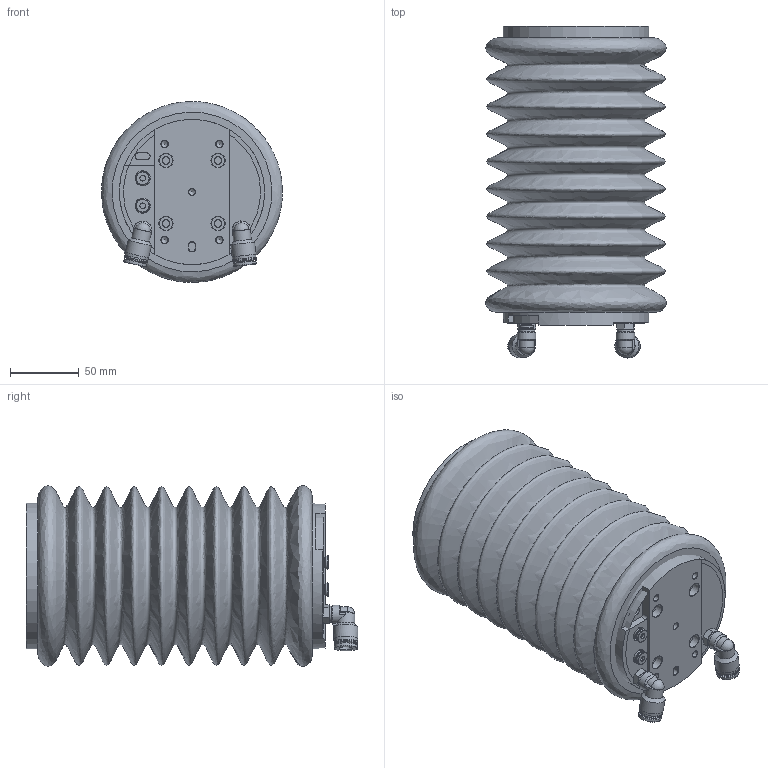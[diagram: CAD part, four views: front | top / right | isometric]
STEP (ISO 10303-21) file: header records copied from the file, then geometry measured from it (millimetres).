
FILE_DESCRIPTION(/* description */ (''),/* implementation_level */ '2;1');
FILE_NAME(/* name */ '\\Ds713\02.研發專案\T_機構研發\3_T3000系列_浮動工具\LS201_大型LC浮動\4.CAD\0.簡化CAD\LS201.stp',/* time_stamp */ '2020-03-24T17:28:49+08:00',/* author */ ('PC-acer'),/* organization */ (''),/* preprocessor_version */ 'ST-DEVELOPER v15.2',/* originating_system */ 'Autodesk Inventor 2014',/* authorisation */ '');
FILE_SCHEMA (('AUTOMOTIVE_DESIGN { 1 0 10303 214 3 1 1 }'));
Length unit declared in the file: millimetre
Products named in the file (1): LS201-000-000-00_預設總組_Substitute_3
Bounding box: 131.94 x 242.05 x 131.94 mm (x, y, z)
Volume: 238012.9 mm3; surface area: 204486.3 mm2
Topology: 2 solids, 3 shells, 401 faces, 869 edges, 534 vertices
Faces by surface type: plane 152, cone 123, cylinder 111, torus 12, sphere 2, bspline 1
Full cylindrical faces by diameter (mm): 3 x3, 4 x8, 4.134 x10, 4.5 x4, 4.917 x4, 5 x1, 5.4 x4, 5.5 x4, 6 x2, 6.5 x2, 7.5 x8, 8 x4, 8.566 x2, 9.9 x4, 10 x8, 10.8 x2, 10.917 x2, 12 x6, 13 x1, 13.5 x2, 16.8 x2, 17 x4, 17.5 x2, 27 x1, 100 x2, 106 x2, 108 x2
Entity records: 10047 total; most frequent: CARTESIAN_POINT 1964, DIRECTION 1680, ORIENTED_EDGE 1206, AXIS2_PLACEMENT_3D 752, EDGE_LOOP 698, EDGE_CURVE 604, VERTEX_POINT 482, ADVANCED_FACE 401
